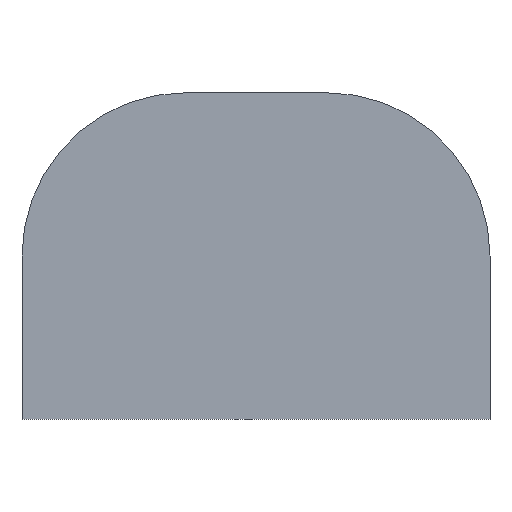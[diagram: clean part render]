
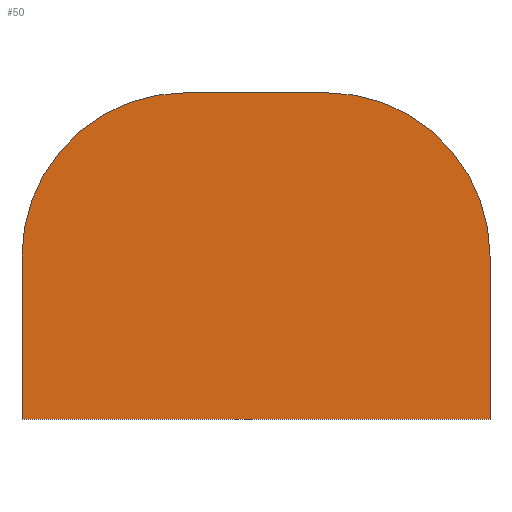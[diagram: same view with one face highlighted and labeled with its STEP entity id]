
A CAD part, left-side view. The second image highlights one B-rep face of the part: STEP entity #50.
In plain terms, the highlighted planar face has unit normal (-1, 0, 0).
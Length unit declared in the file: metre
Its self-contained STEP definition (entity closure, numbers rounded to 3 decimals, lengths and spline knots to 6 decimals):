
#50 = ADVANCED_FACE( '', ( #100 ), #101, .F. );
#100 = FACE_OUTER_BOUND( '', #147, .T. );
#101 = PLANE( '', #148 );
#147 = EDGE_LOOP( '', ( #214, #215, #216, #217, #218, #219 ) );
#148 = AXIS2_PLACEMENT_3D( '', #220, #221, #222 );
#214 = ORIENTED_EDGE( '', *, *, #282, .F. );
#215 = ORIENTED_EDGE( '', *, *, #257, .T. );
#216 = ORIENTED_EDGE( '', *, *, #274, .F. );
#217 = ORIENTED_EDGE( '', *, *, #283, .T. );
#218 = ORIENTED_EDGE( '', *, *, #270, .T. );
#219 = ORIENTED_EDGE( '', *, *, #264, .T. );
#220 = CARTESIAN_POINT( '', ( -0.7, -0.01, 0.174717 ) );
#221 = DIRECTION( '', ( 1., 0., 0. ) );
#222 = DIRECTION( '', ( 0., 0., -1. ) );
#257 = EDGE_CURVE( '', #291, #292, #293, .F. );
#264 = EDGE_CURVE( '', #305, #303, #306, .T. );
#270 = EDGE_CURVE( '', #314, #305, #315, .T. );
#274 = EDGE_CURVE( '', #320, #292, #321, .T. );
#282 = EDGE_CURVE( '', #291, #303, #332, .T. );
#283 = EDGE_CURVE( '', #320, #314, #333, .F. );
#291 = VERTEX_POINT( '', #341 );
#292 = VERTEX_POINT( '', #342 );
#293 = CIRCLE( '', #343, 0.3 );
#303 = VERTEX_POINT( '', #356 );
#305 = VERTEX_POINT( '', #359 );
#306 = LINE( '', #360, #361 );
#314 = VERTEX_POINT( '', #370 );
#315 = LINE( '', #371, #372 );
#320 = VERTEX_POINT( '', #379 );
#321 = LINE( '', #380, #381 );
#332 = LINE( '', #394, #395 );
#333 = CIRCLE( '', #396, 0.3 );
#341 = CARTESIAN_POINT( '', ( -0.7, -0.43, -0.125283 ) );
#342 = CARTESIAN_POINT( '', ( -0.7, -0.13, 0.174717 ) );
#343 = AXIS2_PLACEMENT_3D( '', #404, #405, #406 );
#356 = CARTESIAN_POINT( '', ( -0.7, -0.43, -0.425283 ) );
#359 = CARTESIAN_POINT( '', ( -0.7, 0.43, -0.425283 ) );
#360 = CARTESIAN_POINT( '', ( -0.7, -0.01, -0.425283 ) );
#361 = VECTOR( '', #414, 1. );
#370 = CARTESIAN_POINT( '', ( -0.7, 0.43, -0.125283 ) );
#371 = CARTESIAN_POINT( '', ( -0.7, 0.43, 0.174717 ) );
#372 = VECTOR( '', #422, 1. );
#379 = CARTESIAN_POINT( '', ( -0.7, 0.13, 0.174717 ) );
#380 = CARTESIAN_POINT( '', ( -0.7, -0.01, 0.174717 ) );
#381 = VECTOR( '', #425, 1. );
#394 = CARTESIAN_POINT( '', ( -0.7, -0.43, 0.174717 ) );
#395 = VECTOR( '', #434, 1. );
#396 = AXIS2_PLACEMENT_3D( '', #435, #436, #437 );
#404 = CARTESIAN_POINT( '', ( -0.7, -0.13, -0.125283 ) );
#405 = DIRECTION( '', ( 1., 0., 0. ) );
#406 = DIRECTION( '', ( 0., 0., -1. ) );
#414 = DIRECTION( '', ( 0., -1., 0. ) );
#422 = DIRECTION( '', ( 0., 0., -1. ) );
#425 = DIRECTION( '', ( 0., -1., 0. ) );
#434 = DIRECTION( '', ( 0., 0., -1. ) );
#435 = CARTESIAN_POINT( '', ( -0.7, 0.13, -0.125283 ) );
#436 = DIRECTION( '', ( 1., 0., 0. ) );
#437 = DIRECTION( '', ( 0., 0., -1. ) );
